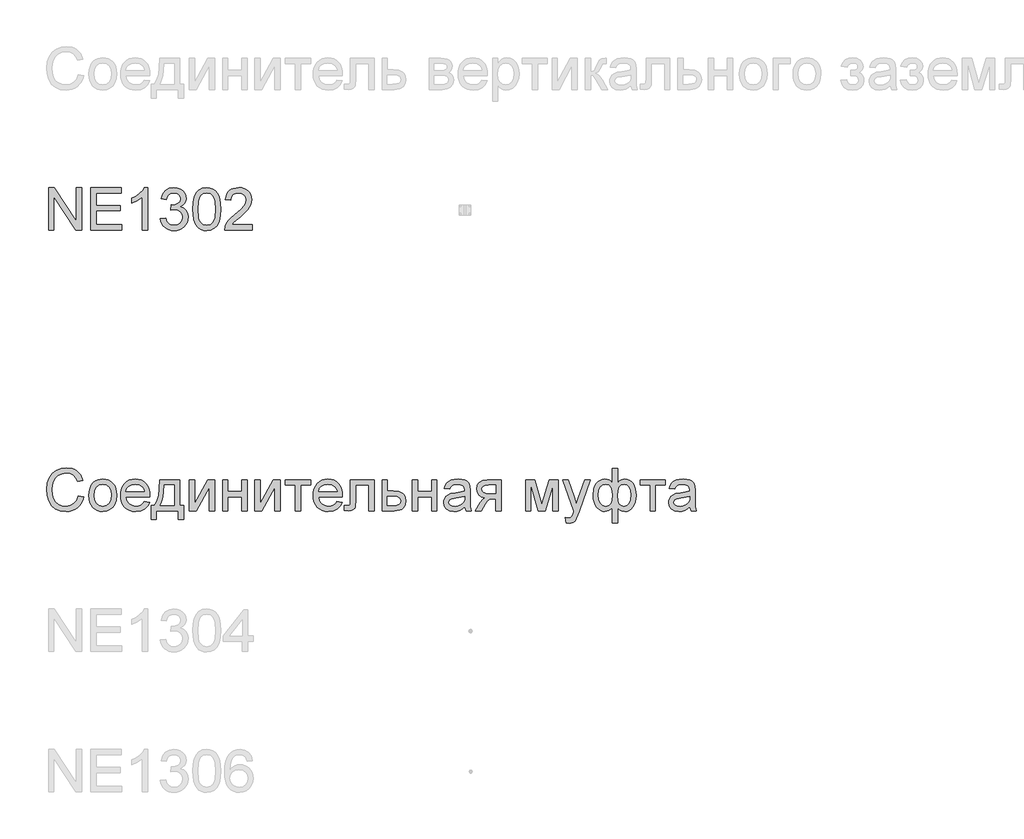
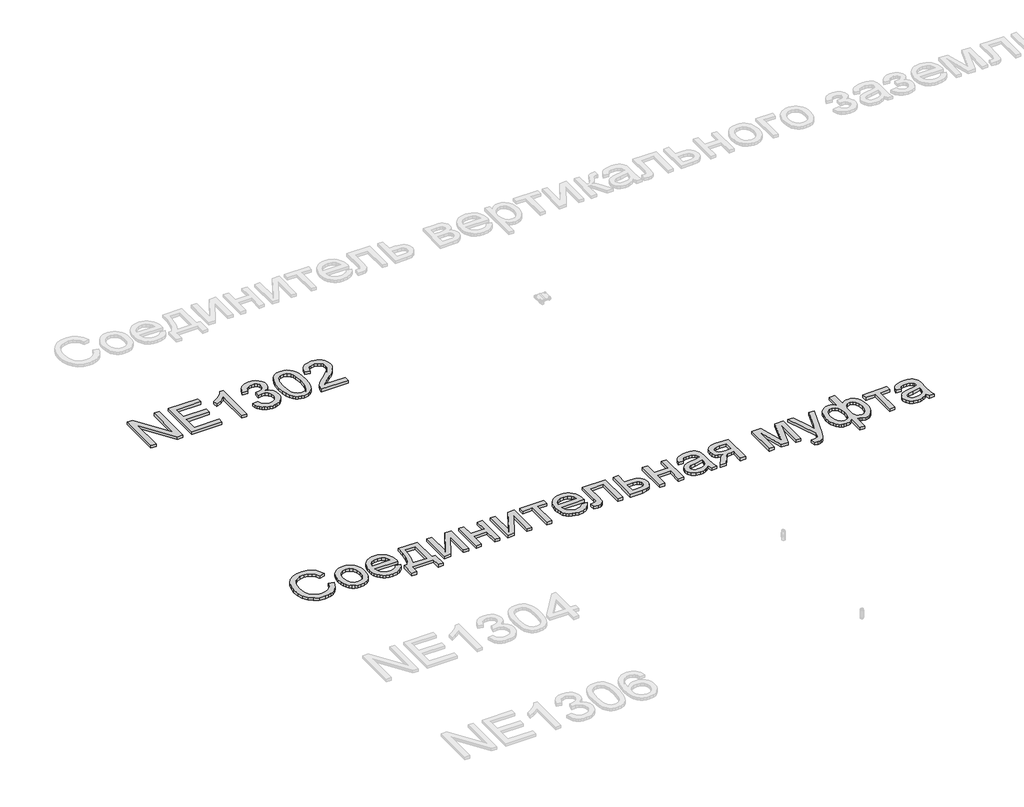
# One storey, part 49 of 124: 2 proxies.
"""IFC4 building model written with IfcOpenShell, lengths in millimetres."""

from ifc_helpers import new_model, si_unit, origin, origin_with_axes, place, context, project, spatial, polyline, outline, extrude, element, save

model = new_model("IFC4")

# Units and contexts
model_context = context("Model", 3, world=origin())
ifc_project = project(units=[si_unit("LENGTHUNIT", "METRE", prefix="MILLI")], contexts=[model_context])

# Site, building, storey
site = spatial("IfcSite", under=ifc_project)
building = spatial("IfcBuilding", under=site)
storey = spatial("IfcBuildingStorey", under=building, Name="Этаж 01", Elevation=0.0)

# Proxies
placement = place(None, origin())
element("IfcBuildingElementProxy", 1, Name="300", ObjectType="300", at=placement, inside=storey, context=model_context, shape_type="SweptSolid", body=[
    extrude(outline(polyline([(32939.8675381, -74074.498362), (32939.8675381, -73773.1294316), (32980.1874048, -73773.1294316), (33137.6408988, -74011.8848464), (33137.6408988, -73773.1294316), (33175.3120151, -73773.1294316), (33175.3120151, -74074.498362), (33134.9921484, -74074.498362), (32977.5386545, -73835.6693707), (32977.5386545, -74074.498362), (32939.8675381, -74074.498362)])), origin_with_axes(), (0.0, 0.0, 1.0), 20.0),
    extrude(outline(polyline([(33241.2364686, -74074.498362), (33241.2364686, -73773.1294316), (33457.8453874, -73773.1294316), (33457.8453874, -73810.8005479), (33278.9075849, -73810.8005479), (33278.9075849, -73900.2694491), (33448.4276083, -73900.2694491), (33448.4276083, -73937.9405654), (33278.9075849, -73937.9405654), (33278.9075849, -74036.8272457), (33462.5542769, -74036.8272457), (33462.5542769, -74074.498362), (33241.2364686, -74074.498362)])), origin_with_axes(), (0.0, 0.0, 1.0), 20.0),
    extrude(outline(polyline([(33646.2009689, -74074.498362), (33608.5298526, -74074.498362), (33608.5298526, -73839.6424963), (33572.8452991, -73865.0631421), (33533.18762, -73884.0826413), (33533.18762, -73848.4716642), (33562.7745294, -73832.3768269), (33588.4067074, -73813.228569), (33608.612626, -73792.8663006), (33621.9207572, -73773.1294316), (33646.2009689, -73773.1294316), (33646.2009689, -74074.498362)])), origin_with_axes(), (0.0, 0.0, 1.0), 20.0),
    extrude(outline(polyline([(33735.6698701, -73994.4472399), (33773.3409864, -73989.7383503), (33781.7746812, -74013.4115567), (33794.1263191, -74029.3960294), (33811.0029057, -74038.5011088), (33833.011446, -74041.5361352), (33858.8367621, -74037.3606746), (33878.7759662, -74024.8342927), (33891.5230774, -74006.1458873), (33895.7721144, -73983.4843564), (33891.5598656, -73961.9724567), (33878.923119, -73944.5256531), (33859.7932553, -73932.9649614), (33836.1016548, -73929.1113975), (33809.6877275, -73933.2316759), (33813.8815823, -73895.5605595), (33819.914847, -73896.0020179), (33842.4844074, -73893.2980853), (33862.6627349, -73885.1862873), (33876.8997681, -73871.4642889), (33881.6454458, -73851.9297549), (33878.2057491, -73835.6601737), (33867.8866592, -73822.4624071), (33852.1413098, -73813.7160127), (33832.4228348, -73810.8005479), (33812.6675717, -73813.7436038), (33796.5175521, -73822.5727717), (33784.7269342, -73837.2880515), (33778.049876, -73857.8894432), (33740.3787597, -73853.1805537), (33751.4704018, -73819.3538042), (33771.2072708, -73794.0987053), (33798.2098093, -73778.37175), (33831.0984597, -73773.1294316), (33854.7808631, -73775.7138026), (33876.5318861, -73783.4669156), (33894.8708035, -73795.698992), (33908.3168905, -73811.7202528), (33916.5666442, -73830.178732), (33919.3165621, -73849.7224629), (33916.7045999, -73867.9326217), (33908.8687134, -73884.4505233), (33895.9192672, -73898.5220096), (33877.9666259, -73909.3929226), (33901.5478617, -73918.9210662), (33919.0222565, -73935.1446622), (33929.8379872, -73957.1807937), (33933.4432307, -73984.146544), (33931.6406089, -74003.2580136), (33926.2327436, -74020.8611671), (33917.2196347, -74036.9560044), (33904.6012823, -74051.5425255), (33889.2284134, -74063.6458431), (33871.9517552, -74072.29107), (33852.7713077, -74077.4782062), (33831.6870709, -74079.2072515), (33812.6307835, -74077.731125), (33795.2667533, -74073.3027455), (33779.5949803, -74065.922113), (33765.6154645, -74055.5892274), (33753.8938245, -74042.9110942), (33744.9956787, -74028.4947185), (33738.9210272, -74012.3401004), (33735.6698701, -73994.4472399)])), origin_with_axes(), (0.0, 0.0, 1.0), 20.0),
    extrude(outline(polyline([(33966.4054575, -73926.2419179), (33969.1737695, -73878.0033913), (33977.4787055, -73839.5321317), (33991.2374922, -73810.2395278), (34010.3673559, -73789.5369685), (34035.0062525, -73777.2313158), (34065.2921378, -73773.1294316), (34088.5054917, -73775.5574527), (34109.2908244, -73782.8415162), (34126.6732487, -73794.6965135), (34139.6778772, -73810.8373361), (34149.5003265, -73831.1260281), (34157.336213, -73855.4246339), (34162.4681668, -73886.2807362), (34164.1788181, -73926.2419179), (34161.4380972, -73974.2045331), (34153.2159346, -74012.5838222), (34139.5399215, -74041.9040172), (34120.4376489, -74062.68935), (34095.7435699, -74075.0777761), (34065.2921378, -74079.2072515), (34044.5435933, -74077.4138268), (34026.1494935, -74072.0335526), (34010.1098385, -74063.066429), (33996.4246283, -74050.5124559), (33983.2912411, -74027.8187353), (33973.9102502, -73999.5424055), (33968.2816557, -73965.6834664), (33966.4054575, -73926.2419179)]), holes=[polyline([(34004.0765738, -73926.1683415), (34008.4911577, -73985.4249339), (34014.0093877, -74005.6929326), (34021.7349096, -74019.7207329), (34041.4533845, -74036.0822847), (34065.2921378, -74041.5361352), (34089.1308911, -74036.0638906), (34108.849366, -74019.6471565), (34116.5748879, -74005.5963636), (34122.0931178, -73985.3329634), (34126.5077018, -73926.1683415), (34122.2402706, -73868.2453214), (34116.9059817, -73848.0440013), (34109.4379772, -73833.682808), (34089.7562905, -73816.5211129), (34064.8506794, -73810.8005479), (34041.2694435, -73815.8405312), (34022.3235208, -73830.9604812), (34014.3404815, -73846.595466), (34008.6383105, -73867.6751043), (34004.0765738, -73926.1683415)])]), origin_with_axes(), (0.0, 0.0, 1.0), 20.0),
    extrude(outline(polyline([(34390.2055159, -74036.8272457), (34390.2055159, -74074.498362), (34192.4321553, -74074.498362), (34196.4788573, -74048.5258931), (34205.7678777, -74028.2280041), (34219.3611174, -74008.5371203), (34239.02441, -73987.9265315), (34266.5235892, -73964.8695274), (34307.1745496, -73928.7619096), (34331.5651259, -73902.1088591), (34343.760414, -73880.4773977), (34347.8255101, -73859.4345476), (34343.9903403, -73840.5713983), (34332.4848309, -73824.8904283), (34314.798904, -73814.323018), (34292.4224816, -73810.8005479), (34268.9240192, -73814.2402445), (34250.6678752, -73824.5593345), (34238.8864543, -73840.9484774), (34234.8121612, -73862.5983328), (34197.1410449, -73857.8894432), (34206.2737154, -73821.4507316), (34214.820074, -73806.9147943), (34226.0197815, -73794.8344693), (34239.6153205, -73785.3385153), (34255.3491736, -73778.555691), (34293.231822, -73773.1294316), (34313.4216458, -73774.6377477), (34331.390382, -73779.1626963), (34347.1380306, -73786.7042772), (34360.6645917, -73797.2624904), (34371.5286069, -73810.0555868), (34379.2886177, -73824.3018171), (34383.9446242, -73840.0011812), (34385.4966264, -73857.1536793), (34383.8227633, -73875.1707), (34378.8011741, -73892.875021), (34369.8892328, -73910.8828446), (34356.5443134, -73929.8103733), (34335.271537, -73952.4075249), (34302.5760247, -73981.4242172), (34259.2395257, -74017.6605937), (34242.2433775, -74036.8272457), (34390.2055159, -74036.8272457)])), origin_with_axes(), (0.0, 0.0, 1.0), 20.0),
])
element("IfcBuildingElementProxy", 2, Name="300", ObjectType="300", at=placement, inside=storey, context=model_context, shape_type="SweptSolid", body=[
    extrude(outline(polyline([(33151.7675674, -75967.371125), (33189.4386837, -75977.0832097), (33181.9844747, -76000.510395), (33172.0562594, -76020.9807288), (33159.6540376, -76038.494211), (33144.7778095, -76053.0508417), (33127.7632672, -76064.494271), (33108.9461031, -76072.6681491), (33088.3263173, -76077.5724759), (33065.9039097, -76079.2072515), (33022.2087257, -76074.2592387), (32987.5082565, -76059.4152002), (32960.9103883, -76035.1901708), (32941.5230071, -76002.0991854), (32929.6864039, -75963.1956644), (32925.7408695, -75921.5330284), (32930.2014387, -75877.5895241), (32943.5831463, -75839.6424963), (32965.1870165, -75808.8967585), (32994.3140734, -75786.5571244), (33028.8581928, -75772.9546876), (33066.7132501, -75768.420542), (33108.0172011, -75774.2882598), (33125.9859373, -75781.6229071), (33142.1658473, -75791.8914133), (33156.2902166, -75804.8224654), (33168.0923309, -75820.1447505), (33184.7297941, -75857.9630196), (33147.0586778, -75866.9393403), (33133.998867, -75839.4677523), (33116.1565902, -75820.6229971), (33093.3111183, -75809.724493), (33065.2417221, -75806.0916583), (33032.8865006, -75810.1199662), (33006.3070265, -75822.2048897), (32986.1378961, -75841.0772361), (32973.0137059, -75865.4678123), (32965.8124159, -75893.0405679), (32963.4119858, -75921.459452), (32966.2538743, -75956.2610888), (32974.7795395, -75986.353836), (32989.3108783, -76010.5880624), (33010.1697874, -76027.8141368), (33035.176566, -76038.1056356), (33062.1515133, -76041.5361352), (33093.5962269, -76036.8640339), (33119.798622, -76022.8477299), (33139.5814763, -75999.634376), (33151.7675674, -75967.371125)])), origin_with_axes(), (0.0, 0.0, 1.0), 20.0),
    extrude(outline(polyline([(33227.1098, -75963.8394579), (33229.1469465, -75935.1768519), (33235.2583862, -75910.4781745), (33245.4441189, -75889.7434255), (33259.7041448, -75872.972605), (33274.0607396, -75862.2534434), (33289.9072566, -75854.5968994), (33307.2436956, -75850.002973), (33326.0700567, -75848.4716642), (33346.8530902, -75850.336366), (33365.6449623, -75855.9304716), (33382.4456732, -75865.2539809), (33397.2552228, -75878.306894), (33409.3424456, -75894.6477523), (33417.9761761, -75913.8350977), (33423.1564145, -75935.8689299), (33424.8831606, -75960.7492491), (33421.82974, -75998.8066415), (33412.6694784, -76027.7773486), (33397.66909, -76049.4731893), (33377.0952894, -76065.7059823), (33352.6587279, -76075.8319342), (33326.0700567, -76079.2072515), (33304.9835206, -76077.3494475), (33286.0169045, -76071.7760352), (33269.1702083, -76062.4870149), (33254.4434322, -76049.4823863), (33242.4849681, -76032.9828788), (33233.943208, -76013.2092216), (33228.818152, -75990.1614146), (33227.1098, -75963.8394579)]), holes=[polyline([(33264.7809163, -75963.7658815), (33269.1403179, -75997.8593454), (33282.2185229, -76022.1487541), (33301.9002096, -76036.6892899), (33326.0700567, -76041.5361352), (33350.1295392, -76036.6616988), (33369.7744377, -76022.0383895), (33382.8526426, -75997.427084), (33387.2120443, -75962.5886591), (33382.8250515, -75929.4884766), (33369.6640731, -75905.5301616), (33349.9915834, -75890.9896258), (33326.0700567, -75886.1427805), (33301.9002096, -75890.9712317), (33282.2185229, -75905.4565852), (33269.1403179, -75929.6908117), (33264.7809163, -75963.7658815)])]), origin_with_axes(), (0.0, 0.0, 1.0), 20.0),
    extrude(outline(polyline([(33622.2150628, -76008.5739085), (33659.1504151, -76013.282798), (33645.8422839, -76041.1130709), (33624.6062958, -76061.9167978), (33595.9206972, -76074.8846381), (33560.2637348, -76079.2072515), (33536.8894325, -76077.3425497), (33516.0627131, -76071.7484441), (33497.7835765, -76062.4249348), (33482.0520226, -76049.3720217), (33469.4014805, -76032.9529884), (33460.365379, -76013.5311184), (33454.9437181, -75991.1064115), (33453.1364978, -75965.6788678), (33454.9621122, -75939.3891007), (33460.4389554, -75916.2171336), (33469.5670274, -75896.1629663), (33482.3463282, -75879.226599), (33498.0364953, -75865.771315), (33515.8971662, -75856.1603979), (33535.9283408, -75850.3938476), (33558.1300192, -75848.4716642), (33579.616627, -75850.3892491), (33599.0476942, -75856.1420038), (33616.4232206, -75865.7299283), (33631.7432065, -75879.1530226), (33644.2488951, -75896.0526017), (33653.1815297, -75916.0699808), (33658.5411106, -75939.2051598), (33660.3276375, -75965.4581386), (33660.1069083, -75975.6116817), (33490.8076141, -75975.6116817), (33497.3283225, -76003.8098366), (33512.4758636, -76024.5399871), (33534.3372512, -76037.2870982), (33560.9994988, -76041.5361352), (33581.0490675, -76039.5679666), (33597.9348511, -76033.6634605), (33611.6568495, -76023.4547352), (33622.2150628, -76008.5739085)]), holes=[polyline([(33490.8076141, -75937.9405654), (33622.6565212, -75937.9405654), (33617.5613556, -75918.0381495), (33607.5733594, -75903.8011162), (33585.6108043, -75890.5573644), (33557.9828664, -75886.1427805), (33532.5898117, -75889.6652506), (33511.5929469, -75900.2326609), (33496.9972287, -75916.7045772), (33490.8076141, -75937.9405654)])]), origin_with_axes(), (0.0, 0.0, 1.0), 20.0),
    extrude(outline(polyline([(33730.9609806, -75853.1805537), (33872.2276667, -75853.1805537), (33872.2276667, -76036.8272457), (33900.481004, -76036.8272457), (33900.481004, -76135.713926), (33862.8098876, -76135.713926), (33862.8098876, -76074.498362), (33707.4165329, -76074.498362), (33707.4165329, -76135.713926), (33669.7454166, -76135.713926), (33669.7454166, -76036.8272457), (33693.2898643, -76036.8272457), (33710.4055741, -76005.897567), (33722.3893301, -75964.979892), (33729.2411322, -75914.074221), (33730.9609806, -75853.1805537)]), holes=[polyline([(33763.9232073, -75890.85167), (33760.8329986, -75936.9748752), (33755.0940395, -75976.6785395), (33746.70633, -76009.962663), (33735.6698701, -76036.8272457), (33834.5565504, -76036.8272457), (33834.5565504, -75890.85167), (33763.9232073, -75890.85167)])]), origin_with_axes(), (0.0, 0.0, 1.0), 20.0),
    extrude(outline(polyline([(33942.8610098, -75853.1805537), (33980.5321261, -75853.1805537), (33980.5321261, -76021.9648131), (34073.0912361, -75853.1805537), (34121.7988123, -75853.1805537), (34121.7988123, -76074.498362), (34084.1276959, -76074.498362), (34084.1276959, -75906.7441722), (33992.1571972, -76074.498362), (33942.8610098, -76074.498362), (33942.8610098, -75853.1805537)])), origin_with_axes(), (0.0, 0.0, 1.0), 20.0),
    extrude(outline(polyline([(34178.3054867, -75853.1805537), (34215.976603, -75853.1805537), (34215.976603, -75937.9405654), (34314.8632833, -75937.9405654), (34314.8632833, -75853.1805537), (34352.5343996, -75853.1805537), (34352.5343996, -76074.498362), (34314.8632833, -76074.498362), (34314.8632833, -75975.6116817), (34215.976603, -75975.6116817), (34215.976603, -76074.498362), (34178.3054867, -76074.498362), (34178.3054867, -75853.1805537)])), origin_with_axes(), (0.0, 0.0, 1.0), 20.0),
    extrude(outline(polyline([(34409.0410741, -75853.1805537), (34446.7121904, -75853.1805537), (34446.7121904, -76021.9648131), (34539.2713004, -75853.1805537), (34587.9788765, -75853.1805537), (34587.9788765, -76074.498362), (34550.3077602, -76074.498362), (34550.3077602, -75906.7441722), (34458.3372614, -76074.498362), (34409.0410741, -76074.498362), (34409.0410741, -75853.1805537)])), origin_with_axes(), (0.0, 0.0, 1.0), 20.0),
    extrude(outline(polyline([(34625.6499928, -75853.1805537), (34804.5877953, -75853.1805537), (34804.5877953, -75890.85167), (34733.9544522, -75890.85167), (34733.9544522, -76074.498362), (34696.2833359, -76074.498362), (34696.2833359, -75890.85167), (34625.6499928, -75890.85167), (34625.6499928, -75853.1805537)])), origin_with_axes(), (0.0, 0.0, 1.0), 20.0),
    extrude(outline(polyline([(34992.5019184, -76008.5739085), (35029.4372708, -76013.282798), (35016.1291396, -76041.1130709), (34994.8931514, -76061.9167978), (34966.2075528, -76074.8846381), (34930.5505904, -76079.2072515), (34907.1762882, -76077.3425497), (34886.3495687, -76071.7484441), (34868.0704321, -76062.4249348), (34852.3388783, -76049.3720217), (34839.6883362, -76032.9529884), (34830.6522347, -76013.5311184), (34825.2305738, -75991.1064115), (34823.4233535, -75965.6788678), (34825.2489679, -75939.3891007), (34830.7258111, -75916.2171336), (34839.8538831, -75896.1629663), (34852.6331839, -75879.226599), (34868.323351, -75865.771315), (34886.1840218, -75856.1603979), (34906.2151965, -75850.3938476), (34928.4168749, -75848.4716642), (34949.9034827, -75850.3892491), (34969.3345498, -75856.1420038), (34986.7100763, -75865.7299283), (35002.0300621, -75879.1530226), (35014.5357507, -75896.0526017), (35023.4683854, -75916.0699808), (35028.8279662, -75939.2051598), (35030.6144931, -75965.4581386), (35030.3937639, -75975.6116817), (34861.0944698, -75975.6116817), (34867.6151781, -76003.8098366), (34882.7627193, -76024.5399871), (34904.6241068, -76037.2870982), (34931.2863544, -76041.5361352), (34951.3359232, -76039.5679666), (34968.2217068, -76033.6634605), (34981.9437052, -76023.4547352), (34992.5019184, -76008.5739085)]), holes=[polyline([(34861.0944698, -75937.9405654), (34992.9433768, -75937.9405654), (34987.8482112, -75918.0381495), (34977.860215, -75903.8011162), (34955.8976599, -75890.5573644), (34928.2697221, -75886.1427805), (34902.8766674, -75889.6652506), (34881.8798025, -75900.2326609), (34867.2840843, -75916.7045772), (34861.0944698, -75937.9405654)])]), origin_with_axes(), (0.0, 0.0, 1.0), 20.0),
    extrude(outline(polyline([(35087.1211676, -75853.1805537), (35256.641191, -75853.1805537), (35256.641191, -76074.2776328), (35218.9700747, -76074.2776328), (35218.9700747, -75890.85167), (35124.7922839, -75890.85167), (35124.7922839, -75996.4338026), (35122.2538981, -76045.1413788), (35117.4990233, -76056.1686416), (35108.3111705, -76065.7059823), (35094.3684429, -76072.3002671), (35075.3489438, -76074.498362), (35044.7411618, -76072.5853756), (35044.7411618, -76036.8272457), (35061.5901571, -76036.8272457), (35078.6230935, -76034.5095891), (35085.4289104, -76027.1519492), (35087.1211676, -75994.3000871), (35087.1211676, -75853.1805537)])), origin_with_axes(), (0.0, 0.0, 1.0), 20.0),
    extrude(outline(polyline([(35313.1478654, -75853.1805537), (35350.8189817, -75853.1805537), (35350.8189817, -75933.2316759), (35394.2290572, -75933.2316759), (35431.8633853, -75937.9497624), (35447.0109264, -75943.8473707), (35459.7120523, -75952.1040222), (35469.7552308, -75962.4346085), (35476.9289297, -75974.554021), (35482.6678888, -76004.1593245), (35477.7842553, -76031.1158777), (35463.1333549, -76053.8601821), (35451.9014577, -76062.8893858), (35437.7403002, -76069.338817), (35400.6302039, -76074.498362), (35313.1478654, -76074.498362), (35313.1478654, -75853.1805537)]), holes=[polyline([(35350.8189817, -76036.8272457), (35385.9885005, -76036.8272457), (35413.2761475, -76034.84988), (35431.4219269, -76028.9177828), (35441.6030611, -76018.7918309), (35444.9967725, -76004.2329009), (35442.4859779, -75991.9272482), (35434.953594, -75981.0563352), (35418.8127715, -75973.4411779), (35390.4766608, -75970.9027922), (35350.8189817, -75970.9027922), (35350.8189817, -76036.8272457)])]), origin_with_axes(), (0.0, 0.0, 1.0), 20.0),
    extrude(outline(polyline([(35529.7567842, -75853.1805537), (35567.4279005, -75853.1805537), (35567.4279005, -75937.9405654), (35666.3145808, -75937.9405654), (35666.3145808, -75853.1805537), (35703.9856971, -75853.1805537), (35703.9856971, -76074.498362), (35666.3145808, -76074.498362), (35666.3145808, -75975.6116817), (35567.4279005, -75975.6116817), (35567.4279005, -76074.498362), (35529.7567842, -76074.498362), (35529.7567842, -75853.1805537)])), origin_with_axes(), (0.0, 0.0, 1.0), 20.0),
    extrude(outline(polyline([(35901.7590577, -76046.2450248), (35883.7604311, -76061.6776745), (35865.2283756, -76071.7760352), (35845.7398269, -76077.3494475), (35824.8717207, -76079.2072515), (35793.390219, -76074.7374853), (35770.167668, -76061.3281866), (35755.8478614, -76040.9659181), (35751.0745925, -76015.6372428), (35752.8772143, -76000.0206521), (35758.2850796, -75985.8388012), (35766.6268038, -75973.6986953), (35777.2310023, -75964.2073398), (35803.6081414, -75951.8465048), (35836.2024862, -75946.1811221), (35874.7197311, -75940.2214338), (35901.5383285, -75933.2316759), (35901.7590577, -75924.8439664), (35899.1654897, -75908.0317592), (35891.3847855, -75897.0320875), (35873.9839671, -75888.8651072), (35849.7405436, -75886.1427805), (35827.2997419, -75887.9545993), (35811.6279689, -75893.3900558), (35800.9409969, -75903.4424313), (35793.4545983, -75919.1050072), (35755.783482, -75914.3961177), (35762.3225845, -75893.794726), (35772.0806544, -75877.6079182), (35785.9681997, -75865.228689), (35804.8957284, -75856.0500333), (35828.0447029, -75850.3662564), (35854.5965859, -75848.4716642), (35880.0632171, -75850.1455272), (35900.2507415, -75855.1671165), (35915.4718591, -75862.7178944), (35926.0392694, -75871.9793237), (35933.0474214, -75883.4296508), (35937.590764, -75897.5471223), (35939.430174, -75930.5093491), (35939.430174, -75977.3775153), (35941.3431604, -76042.8237222), (35948.8479531, -76074.498362), (35911.1768368, -76074.498362), (35901.7590577, -76046.2450248)]), holes=[polyline([(35901.7590577, -75970.9027922), (35840.9849521, -75982.4542868), (35808.5745483, -75988.5611279), (35793.8960567, -75998.4939418), (35788.7457088, -76012.9884924), (35791.550809, -76024.1904992), (35799.9661097, -76033.3691549), (35813.8076697, -76039.4943902), (35832.8915482, -76041.5361352), (35853.125058, -76039.282858), (35871.0041229, -76032.5230264), (35885.4986735, -76022.5626213), (35895.5786402, -76010.707624), (35900.0484064, -75998.4939418), (35901.5383285, -75981.57137), (35901.7590577, -75970.9027922)])]), origin_with_axes(), (0.0, 0.0, 1.0), 20.0),
    extrude(outline(polyline([(36160.7479823, -75853.1805537), (36160.7479823, -76074.498362), (36123.076866, -76074.498362), (36123.076866, -75989.7383503), (36102.5490507, -75989.7383503), (36074.5900191, -75994.5208163), (36063.4248005, -76004.9502708), (36048.3232446, -76026.6737026), (36018.3040738, -76074.498362), (35974.7468456, -76074.498362), (36012.5651147, -76014.018562), (36029.2669572, -75992.3135243), (36044.6444246, -75982.675016), (36018.892685, -75974.7839472), (36000.7928908, -75959.7927559), (35990.0875248, -75939.8535518), (35986.5190694, -75917.1184445), (35991.3935058, -75891.3299166), (36006.0168151, -75870.9124659), (36029.8739625, -75857.6135317), (36062.4499132, -75853.1805537), (36160.7479823, -75853.1805537)]), holes=[polyline([(36123.076866, -75890.85167), (36073.4127967, -75890.85167), (36047.7622246, -75893.0313708), (36033.2032946, -75899.5704733), (36026.4434629, -75909.0342376), (36024.1901857, -75919.987924), (36027.5103207, -75934.3445189), (36037.4707257, -75944.3049239), (36055.8740225, -75950.1266565), (36084.5228329, -75952.067234), (36123.076866, -75952.067234), (36123.076866, -75890.85167)])]), origin_with_axes(), (0.0, 0.0, 1.0), 20.0),
    extrude(outline(polyline([(36334.9768952, -75853.1805537), (36399.7977028, -75853.1805537), (36449.7560777, -76030.3525226), (36503.6140018, -75853.1805537), (36565.7124826, -75853.1805537), (36565.7124826, -76074.498362), (36528.0413663, -76074.498362), (36528.0413663, -75896.2963235), (36473.8891366, -76074.498362), (36424.4457965, -76074.498362), (36372.6480115, -75887.7614613), (36372.6480115, -76074.498362), (36334.9768952, -76074.498362), (36334.9768952, -75853.1805537)])), origin_with_axes(), (0.0, 0.0, 1.0), 20.0),
    extrude(outline(polyline([(36622.2191571, -76159.2583737), (36617.5102675, -76122.985209), (36636.6401313, -76126.2961469), (36654.5191962, -76122.1390804), (36665.4820797, -76110.5507975), (36675.7827756, -76082.8124951), (36678.7258315, -76073.6890216), (36598.6747094, -75853.1805537), (36638.4059649, -75853.1805537), (36680.8595471, -75976.0531401), (36695.6484033, -76025.2021746), (36710.4372595, -75981.7920992), (36754.0680641, -75853.1805537), (36793.505014, -75853.1805537), (36716.4705242, -76079.7958627), (36696.4577437, -76128.9448973), (36686.2122301, -76144.6350644), (36674.6055532, -76155.5059773), (36661.1226781, -76161.8519418), (36645.24857, -76163.9672632), (36622.2191571, -76159.2583737)])), origin_with_axes(), (0.0, 0.0, 1.0), 20.0),
    extrude(outline(polyline([(36951.8414247, -75773.1294316), (36989.5125411, -75773.1294316), (36989.5125411, -75874.444133), (37000.9444741, -75863.0122), (37013.4616589, -75854.9095991), (37027.0089134, -75850.0811479), (37041.5310552, -75848.4716642), (37058.970961, -75850.5180078), (37074.502479, -75856.6570386), (37088.1256091, -75866.8887565), (37099.8403514, -75881.2131617), (37109.2558312, -75898.6415713), (37115.9811739, -75918.1853023), (37121.3614481, -75963.6187287), (37119.9129128, -75988.2737201), (37115.5673067, -76010.4409096), (37108.3246299, -76030.1202971), (37098.1848824, -76047.3118826), (37085.8930253, -76061.2661065), (37072.1940195, -76071.2334093), (37057.087865, -76077.213791), (37040.574562, -76079.2072515), (37017.5451491, -76075.5284316), (37004.6876734, -76068.6674324), (36989.5125411, -76055.4420747), (36989.5125411, -76159.2583737), (36951.8414247, -76159.2583737), (36951.8414247, -76055.4420747), (36927.7819423, -76073.2475632), (36899.3078758, -76079.2072515), (36882.9923094, -76077.3034622), (36867.7436007, -76071.5920942), (36853.5617497, -76062.0731476), (36840.4467566, -76048.7466223), (36829.4378879, -76031.8746343), (36821.5744103, -76011.7192995), (36816.8563237, -75988.2806179), (36815.2836281, -75961.5585895), (36820.976602, -75917.394356), (36828.0928194, -75898.2231055), (36838.0555236, -75880.9924325), (36850.4232565, -75866.7645964), (36864.7545594, -75856.6018563), (36881.0494326, -75850.5042122), (36899.3078758, -75848.4716642), (36914.6577521, -75850.0811479), (36928.4809181, -75854.9095991), (36940.8509501, -75863.0122), (36951.8414247, -75874.444133), (36951.8414247, -75773.1294316)]), holes=[polyline([(36989.2918119, -75964.5016454), (36992.4280059, -76002.6418113), (37001.8365879, -76025.827574), (37015.9724536, -76037.6089949), (37033.2904985, -76041.5361352), (37052.6502885, -76036.707684), (37068.9382638, -76022.2223305), (37080.0023148, -75997.5650398), (37083.6903318, -75962.2207771), (37080.2874234, -75928.7067273), (37070.078698, -75904.9783386), (37054.5356837, -75890.85167), (37035.1299085, -75886.1427805), (37015.1447191, -75891.0448081), (37000.8065183, -75905.7508908), (36992.1704885, -75930.2426346), (36989.2918119, -75964.5016454)]), polyline([(36852.9547444, -75960.7492491), (36856.7255349, -75997.7029955), (36868.0379062, -76022.6270007), (36884.9420839, -76036.8088516), (36905.4882934, -76041.5361352), (36925.9333352, -76036.8364427), (36940.4738711, -76022.7373653), (36949.1650832, -75999.2389028), (36952.0621539, -75966.3410554), (36949.0179304, -75931.2543101), (36939.8852599, -75906.1923492), (36924.6089601, -75891.1551727), (36903.1338486, -75886.1427805), (36882.9739153, -75891.035611), (36866.9342603, -75905.7141026), (36856.4496234, -75929.2585503), (36852.9547444, -75960.7492491)])]), origin_with_axes(), (0.0, 0.0, 1.0), 20.0),
    extrude(outline(polyline([(37149.6147854, -75853.1805537), (37328.5525878, -75853.1805537), (37328.5525878, -75890.85167), (37257.9192447, -75890.85167), (37257.9192447, -76074.498362), (37220.2481284, -76074.498362), (37220.2481284, -75890.85167), (37149.6147854, -75890.85167), (37149.6147854, -75853.1805537)])), origin_with_axes(), (0.0, 0.0, 1.0), 20.0),
    extrude(outline(polyline([(37502.7815007, -76046.2450248), (37484.7828741, -76061.6776745), (37466.2508186, -76071.7760352), (37446.7622699, -76077.3494475), (37425.8941637, -76079.2072515), (37394.412662, -76074.7374853), (37371.1901111, -76061.3281866), (37356.8703044, -76040.9659181), (37352.0970355, -76015.6372428), (37353.8996573, -76000.0206521), (37359.3075226, -75985.8388012), (37367.6492468, -75973.6986953), (37378.2534454, -75964.2073398), (37404.6305844, -75951.8465048), (37437.2249292, -75946.1811221), (37475.7421741, -75940.2214338), (37502.5607715, -75933.2316759), (37502.7815007, -75924.8439664), (37500.1879327, -75908.0317592), (37492.4072285, -75897.0320875), (37475.0064101, -75888.8651072), (37450.7629866, -75886.1427805), (37428.3221849, -75887.9545993), (37412.6504119, -75893.3900558), (37401.9634399, -75903.4424313), (37394.4770413, -75919.1050072), (37356.805925, -75914.3961177), (37363.3450275, -75893.794726), (37373.1030974, -75877.6079182), (37386.9906427, -75865.228689), (37405.9181714, -75856.0500333), (37429.0671459, -75850.3662564), (37455.6190289, -75848.4716642), (37481.0856601, -75850.1455272), (37501.2731845, -75855.1671165), (37516.4943021, -75862.7178944), (37527.0617124, -75871.9793237), (37534.0698644, -75883.4296508), (37538.6132071, -75897.5471223), (37540.452617, -75930.5093491), (37540.452617, -75977.3775153), (37542.3656034, -76042.8237222), (37549.8703961, -76074.498362), (37512.1992798, -76074.498362), (37502.7815007, -76046.2450248)]), holes=[polyline([(37502.7815007, -75970.9027922), (37442.0073951, -75982.4542868), (37409.5969913, -75988.5611279), (37394.9184997, -75998.4939418), (37389.7681518, -76012.9884924), (37392.573252, -76024.1904992), (37400.9885527, -76033.3691549), (37414.8301127, -76039.4943902), (37433.9139912, -76041.5361352), (37454.147501, -76039.282858), (37472.0265659, -76032.5230264), (37486.5211165, -76022.5626213), (37496.6010832, -76010.707624), (37501.0708494, -75998.4939418), (37502.5607715, -75981.57137), (37502.7815007, -75970.9027922)])]), origin_with_axes(), (0.0, 0.0, 1.0), 20.0),
])

save(model, "model.ifc")
